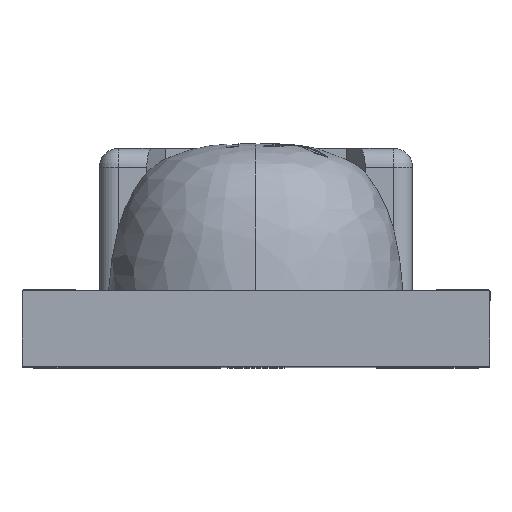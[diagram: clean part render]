
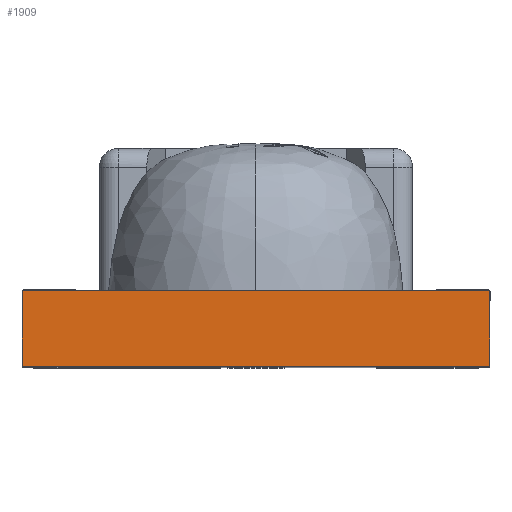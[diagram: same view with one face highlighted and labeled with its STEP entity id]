
A CAD part, top view. The second image highlights one B-rep face of the part: STEP entity #1909.
In plain terms, the highlighted planar face has unit normal (0, 0, 1).
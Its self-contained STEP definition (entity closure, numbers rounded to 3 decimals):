
#530 = DIRECTION ( 'NONE',  ( 1., 0., 0. ) ) ;
#531 = CARTESIAN_POINT ( 'NONE',  ( 0.075, 0., -0.075 ) ) ;
#541 = CARTESIAN_POINT ( 'NONE',  ( 5.005, 0.8, -0.075 ) ) ;
#1070 = EDGE_CURVE ( 'NONE', #2769, #3224, #13877, .T. ) ;
#1177 = EDGE_CURVE ( 'NONE', #2241, #2440, #14117, .T. ) ;
#1632 = ORIENTED_EDGE ( 'NONE', *, *, #1177, .F. ) ;
#1909 = ADVANCED_FACE ( 'NONE', ( #13819 ), #10292, .T. ) ;
#2049 = AXIS2_PLACEMENT_3D ( 'NONE', #10291, #10290, #10289 ) ;
#2241 = VERTEX_POINT ( 'NONE', #11407 ) ;
#2440 = VERTEX_POINT ( 'NONE', #11488 ) ;
#2769 = VERTEX_POINT ( 'NONE', #7760 ) ;
#3224 = VERTEX_POINT ( 'NONE', #541 ) ;
#6243 = EDGE_CURVE ( 'NONE', #2241, #2769, #7010, .T. ) ;
#7010 = LINE ( 'NONE', #531, #7013 ) ;
#7013 = VECTOR ( 'NONE', #530, 1000. ) ;
#7511 = ORIENTED_EDGE ( 'NONE', *, *, #1070, .T. ) ;
#7632 = ORIENTED_EDGE ( 'NONE', *, *, #6243, .T. ) ;
#7636 = ORIENTED_EDGE ( 'NONE', *, *, #14503, .F. ) ;
#7760 = CARTESIAN_POINT ( 'NONE',  ( 5.005, 0., -0.075 ) ) ;
#8891 = CARTESIAN_POINT ( 'NONE',  ( 0.075, 0.8, -0.075 ) ) ;
#8892 = DIRECTION ( 'NONE',  ( 1., 0., 0. ) ) ;
#10289 = DIRECTION ( 'NONE',  ( 1., 0., 0. ) ) ;
#10290 = DIRECTION ( 'NONE',  ( 0., 0., 1. ) ) ;
#10291 = CARTESIAN_POINT ( 'NONE',  ( 0.075, -9.158, -0.075 ) ) ;
#10292 = PLANE ( 'NONE',  #2049 ) ;
#11407 = CARTESIAN_POINT ( 'NONE',  ( 0.075, 0., -0.075 ) ) ;
#11488 = CARTESIAN_POINT ( 'NONE',  ( 0.075, 0.8, -0.075 ) ) ;
#11768 = EDGE_LOOP ( 'NONE', ( #7632, #7511, #7636, #1632 ) ) ;
#12291 = DIRECTION ( 'NONE',  ( 0., 1., 0. ) ) ;
#12721 = CARTESIAN_POINT ( 'NONE',  ( 5.005, -9.158, -0.075 ) ) ;
#13166 = VECTOR ( 'NONE', #8892, 1000. ) ;
#13168 = LINE ( 'NONE', #8891, #13166 ) ;
#13276 = CARTESIAN_POINT ( 'NONE',  ( 0.075, -9.158, -0.075 ) ) ;
#13394 = DIRECTION ( 'NONE',  ( 0., 1., 0. ) ) ;
#13819 = FACE_OUTER_BOUND ( 'NONE', #11768, .T. ) ;
#13872 = VECTOR ( 'NONE', #12291, 1000. ) ;
#13877 = LINE ( 'NONE', #12721, #13872 ) ;
#14054 = VECTOR ( 'NONE', #13394, 1000. ) ;
#14117 = LINE ( 'NONE', #13276, #14054 ) ;
#14503 = EDGE_CURVE ( 'NONE', #2440, #3224, #13168, .T. ) ;
